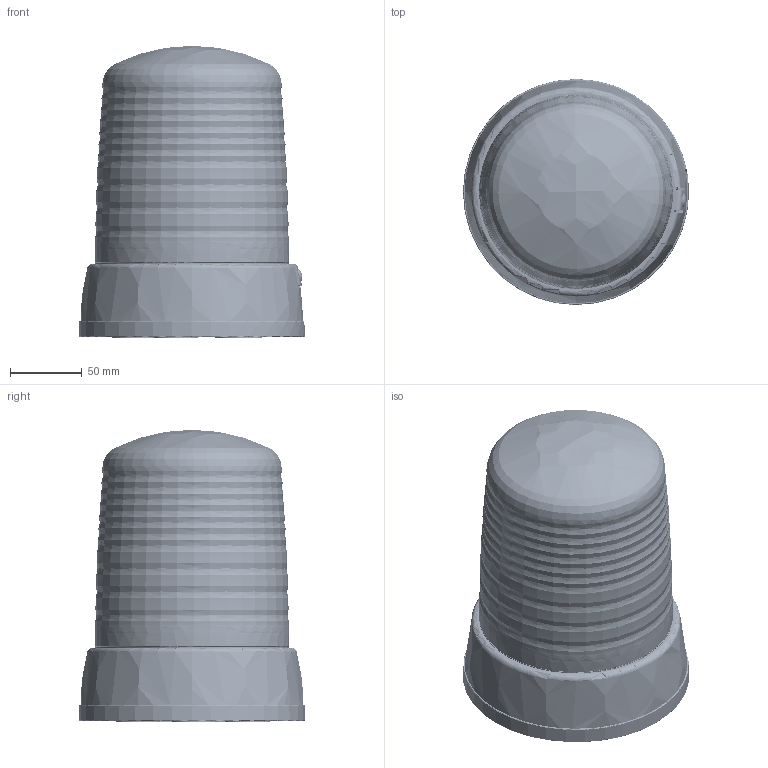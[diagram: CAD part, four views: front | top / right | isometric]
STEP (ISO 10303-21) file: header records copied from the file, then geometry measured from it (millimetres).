
FILE_DESCRIPTION(('CATIA V5 STEP Exchange','CAx-IF Rec.Pracs.--- Model Styling and Organization---1.5--- 2016-08-15','CAx-IF Rec.Pracs.---Supplemental Geometry---1.0---2011-11-01','CAx-IF Rec.Pracs.--- Composite Materials ---1.1---2010-07-15'),'2;1');
FILE_NAME('E:\tmp\ddx\2011221\HELLA_3D_data_KL_7000_magnet_2RL-008-062-10.stp','2022-01-18T07:36:38+00:00',('none'),('none'),'CATIA Version 5-6 Release 2020 SP3 HF9','CATIA V5 STEP AP214 Edition 3 v2','none');
FILE_SCHEMA(('AUTOMOTIVE_DESIGN { 1 0 10303 214 3 1 1 1 }'));
Length unit declared in the file: millimetre
Products named in the file (1): 10000609241_D10_001
Bounding box: 157.33 x 157.33 x 203.52 mm (x, y, z)
Volume: 516336.6 mm3; surface area: 485624.5 mm2
Topology: 88 solids, 97 shells, 6509 faces, 16523 edges, 10238 vertices
Faces by surface type: plane 2205, cylinder 1645, torus 1062, bspline 945, cone 442, sphere 186, revolution 24
Entity records: 294357 total; most frequent: CARTESIAN_POINT 153693, ORIENTED_EDGE 32860, DIRECTION 22019, EDGE_CURVE 16449, VERTEX_POINT 10238, AXIS2_PLACEMENT_3D 10187, EDGE_LOOP 6975, ADVANCED_FACE 6509
